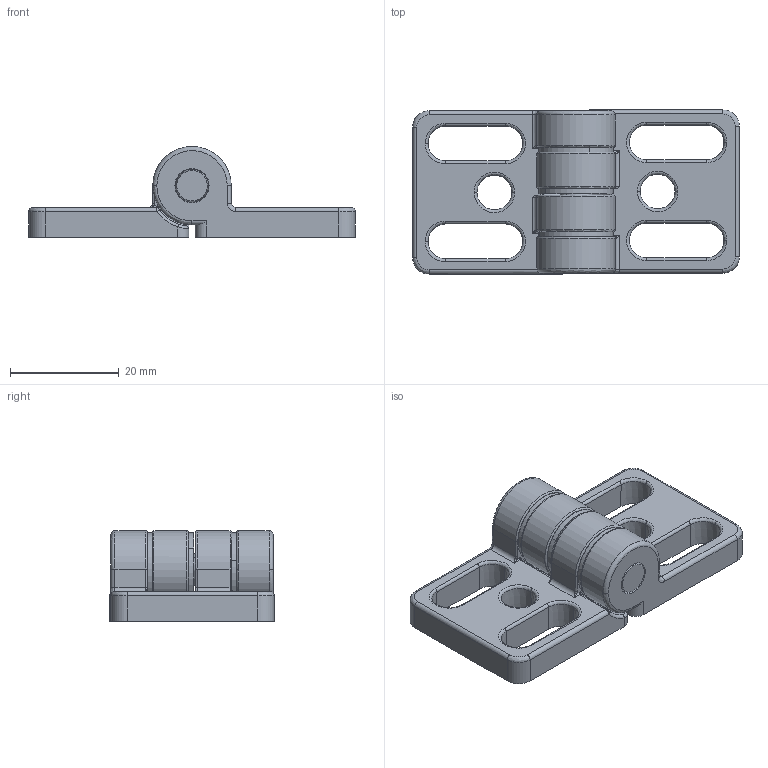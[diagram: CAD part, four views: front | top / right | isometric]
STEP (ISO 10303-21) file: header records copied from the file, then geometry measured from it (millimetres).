
FILE_DESCRIPTION (( 'STEP AP203' ), '1' );
FILE_NAME ('50345_SCH8.30ZN.STEP', '2018-04-05T14:59:56', ( '' ), ( '' ), 'SwSTEP 2.0', 'SolidWorks 2017', '' );
FILE_SCHEMA (( 'CONFIG_CONTROL_DESIGN' ));
Length unit declared in the file: millimetre
Products named in the file (4): 095400r03; 50345_SCH8.30ZN; 095400r04_095 400 r04; 095400r01_095 400 r01
Assembly tree (6 placements, depth 2):
  50345_SCH8.30ZN
    095400r01_095 400 r01  x2
    095400r03  x3
    095400r04_095 400 r04
Bounding box: 60 x 30.17 x 16.7 mm (x, y, z)
Volume: 10798 mm3; surface area: 8676.7 mm2
Topology: 6 solids, 6 shells, 260 faces, 636 edges, 384 vertices
Faces by surface type: cylinder 82, bspline 72, plane 62, cone 44
Entity records: 5629 total; most frequent: CARTESIAN_POINT 2087, ORIENTED_EDGE 654, DIRECTION 635, EDGE_CURVE 327, AXIS2_PLACEMENT_3D 250, VERTEX_POINT 198, EDGE_LOOP 151, CIRCLE 143
